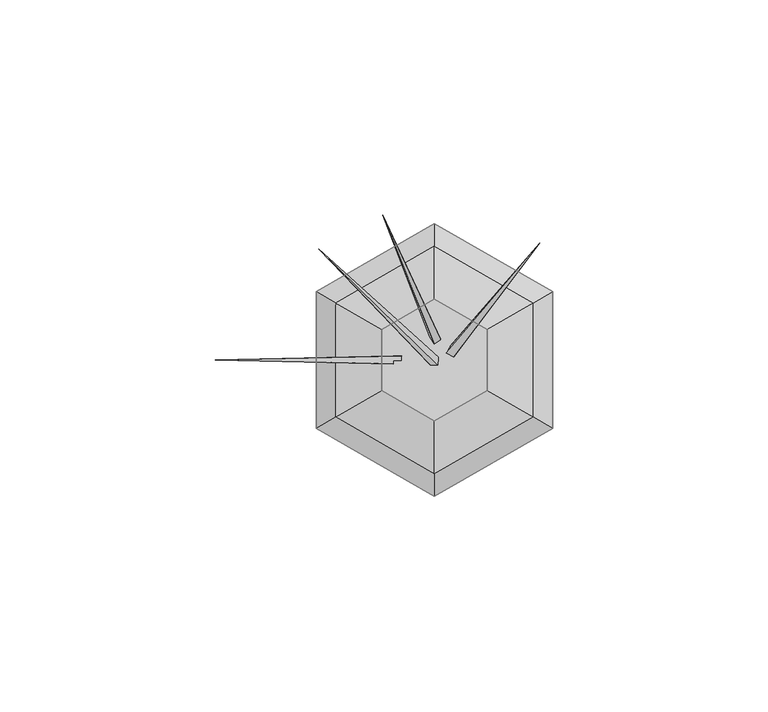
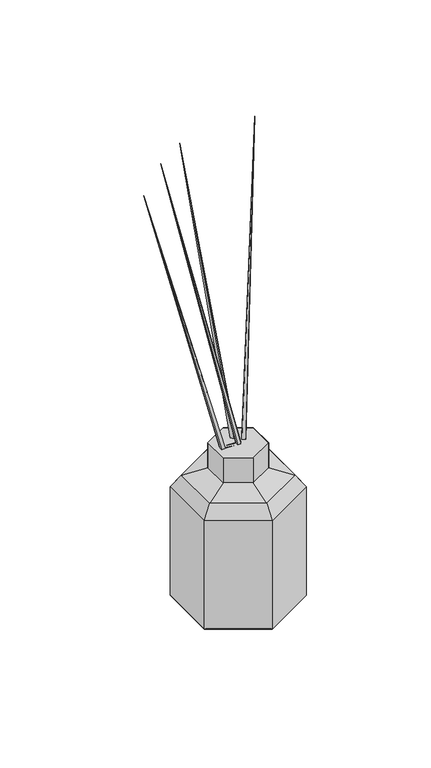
"""IFC4 building model written with IfcOpenShell, lengths in millimetres: geographic element geometry, Enscape AssetDefinition - Decorative Goods 030 Room Fragrance : Enscape AssetDefinition - Decorative Goods 030 Room Fragrance."""

from ifc_helpers import new_model, si_unit, origin, place, context, project, spatial, triangles, source, transform, mapped, element, save


def geographic_element_baeea69e(model_context):
    return source(origin(), model_context, "Body", "Tessellation", [
        triangles([(-22.955001, 13.2529996, 68.4140018), (-12.2550001, 7.0750002, 72.6549993), (-22.955001, -13.2529996, 68.4140018), (0.0, -26.5069985, 68.4140018), (0.0, -14.1510008, 72.6549993), (-12.2550001, -7.0750002, 72.6549993), (22.955001, -13.2529996, 68.4140018), (-12.2550001, 7.0750002, 86.8119976), (-12.2550001, -7.0750002, 86.8119976), (0.0, -14.1510008, 86.8119976), (-7.5730002, -0.938, 86.8119976), (-9.5159997, -0.938, 86.8119976), (-7.5730002, -0.303, 86.8119976), (-50.9189986, 0.0, 244.9549973), (-1.026, -1.172, 86.8119976), (-0.971, 0.096, 86.8119976), (-26.8799999, 25.7180001, 239.122995), (0.878, -1.3099999, 86.8119976), (-9.5159997, 0.938, 86.8119976), (-7.5730002, 0.938, 86.8119976), (-0.944, 0.727, 86.8119976), (0.0, 14.1510008, 86.8119976), (-1.13, 5.2829999, 86.8119976), (-12.0249996, 33.6400002, 240.8239995), (0.329, 0.635, 86.8119976), (0.96, 0.589, 86.8119976), (-0.078, 3.685, 86.8119976), (2.791, 1.565, 86.8119976), (1.483, 4.729, 86.8119976), (0.431, 6.3270001, 86.8119976), (3.711, 3.2429999, 86.8119976), (12.2550001, 7.0750002, 86.8119976), (4.444, 0.674, 86.8119976), (24.5089986, 27.1680001, 247.3780144), (5.3639997, 2.352, 86.8119976), (0.0, 14.1510008, 72.6549993), (12.2550001, 7.0750002, 72.6549993), (12.2550001, -7.0750002, 86.8119976), (12.2550001, -7.0750002, 72.6549993), (22.955001, 13.2529996, 68.4140018), (27.4769997, 15.8639992, 61.7579991), (0.0, 26.5069985, 68.4140018), (0.0, 31.7279984, 61.7579991), (0.0, 31.7279984, 0.0), (27.4769997, 15.8639992, 0.0), (0.0, -31.7279984, 61.7579991), (27.4769997, -15.8639992, 61.7579991), (27.4769997, -15.8639992, 0.0), (-27.4769997, 15.8639992, 61.7579991), (-27.4769997, 15.8639992, 0.0), (-27.4769997, -15.8639992, 0.0), (0.0, -31.7279984, 0.0), (-27.4769997, -15.8639992, 61.7579991)], [[52, 46, 53], [4, 53, 46], [48, 46, 52], [48, 52, 51], [52, 53, 51], [51, 53, 49], [48, 51, 50], [51, 49, 50], [48, 50, 44], [44, 45, 48], [4, 46, 47], [48, 47, 46], [45, 47, 48], [4, 47, 7], [7, 47, 41], [45, 41, 47], [44, 41, 45], [44, 43, 41], [50, 49, 43], [50, 43, 44], [42, 43, 49], [40, 41, 43], [40, 43, 42], [7, 41, 40], [40, 39, 7], [40, 42, 36], [40, 37, 39], [40, 36, 37], [37, 38, 39], [37, 32, 38], [36, 22, 32], [36, 32, 37], [38, 32, 35], [35, 34, 33], [35, 33, 38], [33, 18, 38], [33, 34, 28], [33, 28, 18], [28, 26, 18], [34, 31, 28], [34, 35, 31], [31, 35, 32], [32, 22, 30], [30, 31, 32], [30, 29, 31], [28, 31, 29], [30, 24, 29], [24, 27, 29], [29, 27, 28], [28, 27, 26], [26, 17, 18], [17, 25, 21], [25, 27, 21], [24, 23, 27], [24, 30, 23], [22, 23, 30], [27, 23, 21], [22, 8, 23], [8, 20, 23], [20, 21, 23], [8, 19, 20], [16, 15, 17], [17, 15, 18], [13, 16, 20], [15, 16, 13], [13, 20, 14], [14, 20, 19], [14, 19, 12], [8, 12, 19], [14, 12, 11], [39, 38, 10], [15, 11, 10], [18, 15, 10], [10, 38, 18], [11, 12, 9], [9, 10, 11], [8, 9, 12], [5, 10, 9], [7, 39, 5], [7, 5, 4], [39, 10, 5], [6, 9, 8], [4, 5, 6], [5, 9, 6], [2, 8, 22], [6, 8, 2], [2, 22, 36], [4, 3, 53], [3, 6, 2], [4, 6, 3], [1, 2, 36], [1, 49, 53], [1, 36, 42], [3, 2, 1], [42, 49, 1], [1, 53, 3]], closed=False),
    ])


if __name__ == "__main__":
    model = new_model("IFC4")
    model_context = context("Model", 3, world=origin())
    ifc_project = project(units=[si_unit("LENGTHUNIT", "METRE", prefix="MILLI")], contexts=[model_context])
    site = spatial("IfcSite", under=ifc_project)
    building = spatial("IfcBuilding", under=site)
    placement = place(None, origin())
    geographic_element_shape = geographic_element_baeea69e(model_context)
    element("IfcGeographicElement", 1, ObjectType="Enscape AssetDefinition - Decorative Goods 030 Room Fragrance : Enscape AssetDefinition - Decorative Goods 030 Room Fragrance", at=placement, inside=building, context=model_context, shape_type="MappedRepresentation", body=[
        mapped(geographic_element_shape, transform((0.0, 0.0, 0.0), x_axis=(1.0, 0.0, 0.0), y_axis=(0.0, 1.0, 0.0), z_axis=(0.0, 0.0, 1.0))),
    ])
    save(model, "model.ifc")
